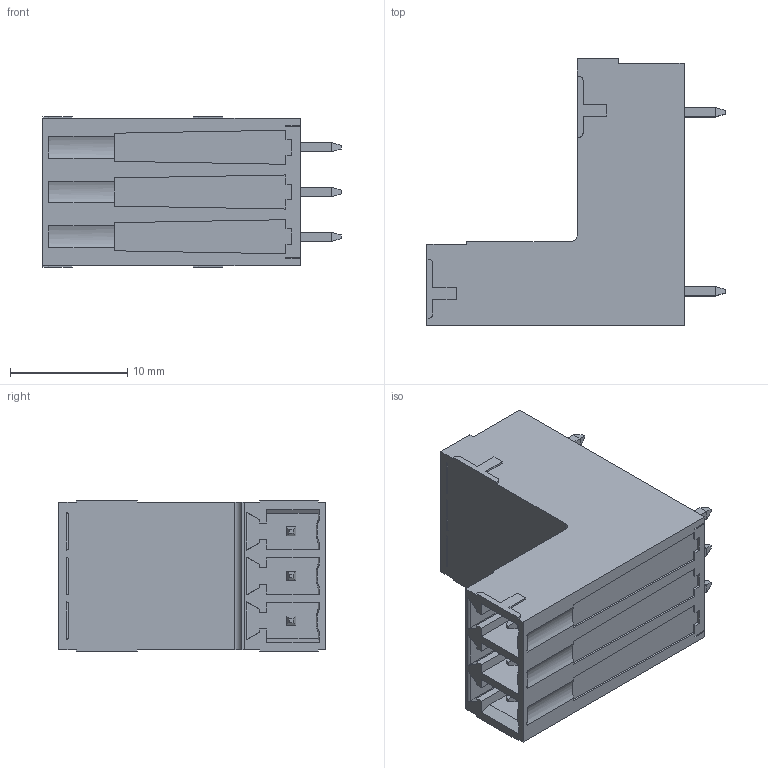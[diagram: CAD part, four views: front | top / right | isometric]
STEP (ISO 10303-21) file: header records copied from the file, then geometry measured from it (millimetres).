
FILE_DESCRIPTION((''),'2;1');
FILE_NAME('3PIN_SW0001','2019-06-04T',('zhenbing.lai'),(''),'CREO PARAMETRIC BY PTC INC, 2016260','CREO PARAMETRIC BY PTC INC, 2016260','');
FILE_SCHEMA(('CONFIG_CONTROL_DESIGN'));
Length unit declared in the file: millimetre
Products named in the file (1): 3PIN_SW0001
Bounding box: 25.4 x 22.7 x 12.82 mm (x, y, z)
Volume: 3372.1 mm3; surface area: 2284.6 mm2
Topology: 1 solids, 1 shells, 292 faces, 749 edges, 483 vertices
Faces by surface type: plane 268, cylinder 21, cone 3
Entity records: 8729 total; most frequent: CARTESIAN_POINT 1614, ORIENTED_EDGE 1498, DIRECTION 1351, EDGE_CURVE 749, VECTOR 695, LINE 695, VERTEX_POINT 483, AXIS2_PLACEMENT_3D 328
